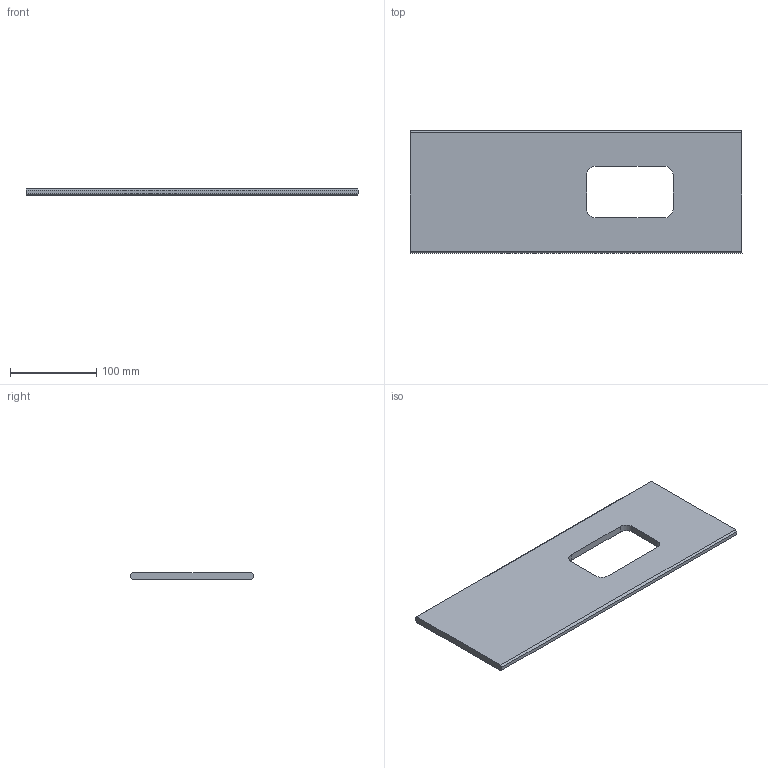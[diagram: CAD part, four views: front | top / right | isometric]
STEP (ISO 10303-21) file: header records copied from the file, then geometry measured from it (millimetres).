
FILE_DESCRIPTION (( 'STEP AP203' ), '1' );
FILE_NAME ('YYDK-500-0033-6 支架侧板4（500T）.step', '2026-03-04T03:13:05', ( 'Windows 用户' ), ( '' ), 'SwSTEP 2.0', 'SolidWorks 2020', '' );
FILE_SCHEMA (( 'CONFIG_CONTROL_DESIGN' ));
Length unit declared in the file: millimetre
Products named in the file (1): YYDK-500-0033-6 支架侧板4（500T）
Bounding box: 385 x 142 x 8 mm (x, y, z)
Volume: 386386.4 mm3; surface area: 106390.9 mm2
Topology: 1 solids, 1 shells, 18 faces, 48 edges, 32 vertices
Faces by surface type: plane 14, cylinder 4
Entity records: 641 total; most frequent: CARTESIAN_POINT 99, ORIENTED_EDGE 96, DIRECTION 94, EDGE_CURVE 48, VECTOR 40, LINE 40, VERTEX_POINT 32, AXIS2_PLACEMENT_3D 27
